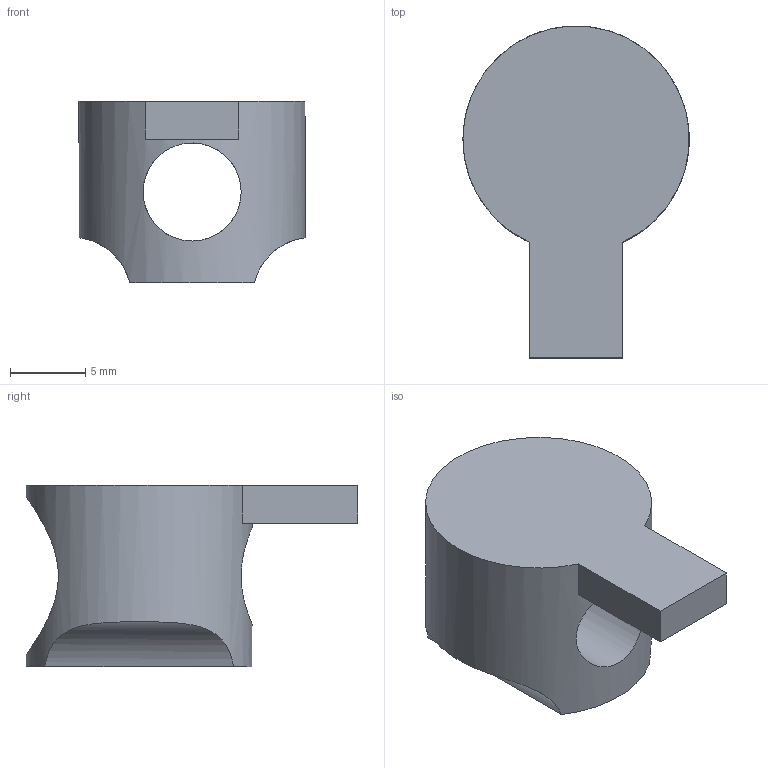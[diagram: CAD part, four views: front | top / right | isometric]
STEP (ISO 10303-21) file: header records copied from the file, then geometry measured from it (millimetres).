
FILE_DESCRIPTION(/* description */ ('Unknown'),/* implementation_level */ '2;1');
FILE_NAME(/* name */ 'NUJ0615',/* time_stamp */ '2026-09-29T09:12:36+08:00',/* author */ ('Unknown'),/* organization */ ('Unknown'),/* preprocessor_version */ 'ST-DEVELOPER v16.7',/* originating_system */ 'DEX',/* authorisation */ $);
FILE_SCHEMA (('AUTOMOTIVE_DESIGN {1 0 10303 214 3 1 1}'));
Length unit declared in the file: millimetre
Products named in the file (1): NUJ0615
Bounding box: 14.99 x 22 x 12 mm (x, y, z)
Volume: 1190.2 mm3; surface area: 1310.6 mm2
Topology: 1 solids, 1 shells, 12 faces, 31 edges, 21 vertices
Faces by surface type: plane 7, cylinder 5
Full cylindrical faces by diameter (mm): 6.5 x1, 10.5 x1, 15 x1
Entity records: 386 total; most frequent: CARTESIAN_POINT 107, DIRECTION 50, ORIENTED_EDGE 44, EDGE_CURVE 22, AXIS2_PLACEMENT_3D 19, EDGE_LOOP 18, FACE_BOUND 18, VERTEX_POINT 16
